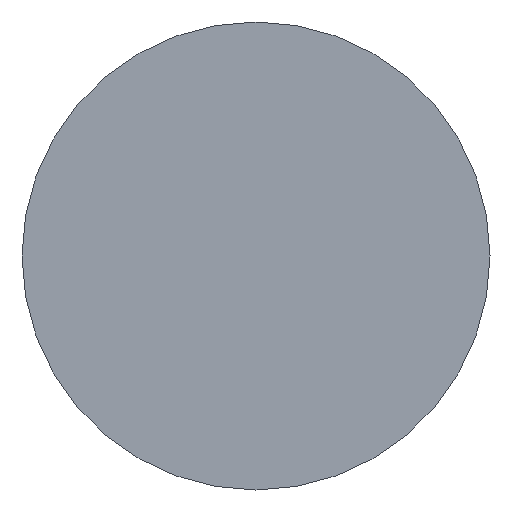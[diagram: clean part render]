
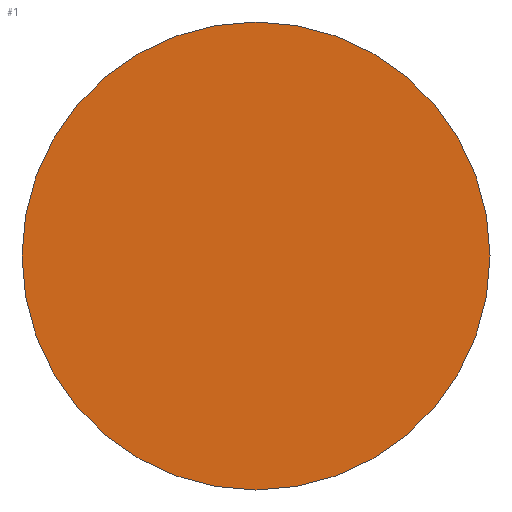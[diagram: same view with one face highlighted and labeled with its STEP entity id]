
A CAD part, front view. The second image highlights one B-rep face of the part: STEP entity #1.
In plain terms, the highlighted planar face has unit normal (0, -1, 0).
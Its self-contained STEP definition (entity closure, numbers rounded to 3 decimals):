
#1 = ADVANCED_FACE ( 'NONE', ( #175 ), #39, .F. ) ;
#10 = CARTESIAN_POINT ( 'NONE',  ( 0., 0., 90. ) ) ;
#16 = AXIS2_PLACEMENT_3D ( 'NONE', #40, #23, #73 ) ;
#23 = DIRECTION ( 'NONE',  ( 0., 1., 0. ) ) ;
#39 = PLANE ( 'NONE',  #16 ) ;
#40 = CARTESIAN_POINT ( 'NONE',  ( 0., 0., 0. ) ) ;
#45 = DIRECTION ( 'NONE',  ( 0., 1., 0. ) ) ;
#48 = CIRCLE ( 'NONE', #105, 90. ) ;
#54 = CIRCLE ( 'NONE', #158, 90. ) ;
#59 = DIRECTION ( 'NONE',  ( 0., 0., 1. ) ) ;
#60 = VERTEX_POINT ( 'NONE', #134 ) ;
#64 = ORIENTED_EDGE ( 'NONE', *, *, #133, .F. ) ;
#73 = DIRECTION ( 'NONE',  ( 0., 0., 1. ) ) ;
#80 = VERTEX_POINT ( 'NONE', #10 ) ;
#98 = DIRECTION ( 'NONE',  ( 0., 0., 1. ) ) ;
#103 = EDGE_LOOP ( 'NONE', ( #64, #145 ) ) ;
#105 = AXIS2_PLACEMENT_3D ( 'NONE', #148, #130, #59 ) ;
#130 = DIRECTION ( 'NONE',  ( 0., 1., 0. ) ) ;
#133 = EDGE_CURVE ( 'NONE', #60, #80, #48, .T. ) ;
#134 = CARTESIAN_POINT ( 'NONE',  ( 0., 0., -90. ) ) ;
#137 = EDGE_CURVE ( 'NONE', #80, #60, #54, .T. ) ;
#145 = ORIENTED_EDGE ( 'NONE', *, *, #137, .F. ) ;
#148 = CARTESIAN_POINT ( 'NONE',  ( 0., 0., 0. ) ) ;
#158 = AXIS2_PLACEMENT_3D ( 'NONE', #172, #45, #98 ) ;
#172 = CARTESIAN_POINT ( 'NONE',  ( 0., 0., 0. ) ) ;
#175 = FACE_OUTER_BOUND ( 'NONE', #103, .T. ) ;
